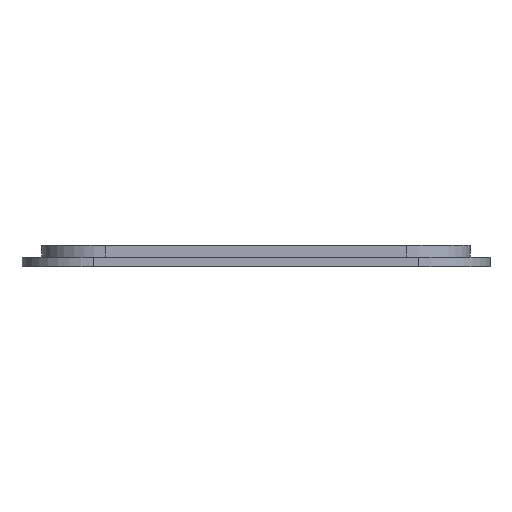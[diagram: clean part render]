
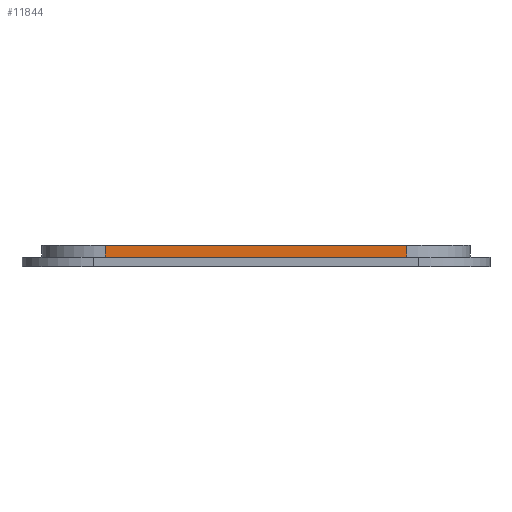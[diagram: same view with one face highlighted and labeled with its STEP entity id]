
A CAD part, front view. The second image highlights one B-rep face of the part: STEP entity #11844.
In plain terms, the highlighted planar face has unit normal (0, -1, 0).
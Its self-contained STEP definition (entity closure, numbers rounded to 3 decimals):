
#44 = PLANE('',#45);
#45 = AXIS2_PLACEMENT_3D('',#46,#47,#48);
#46 = CARTESIAN_POINT('',(-27.,-10.,13.));
#47 = DIRECTION('',(0.,0.,1.));
#48 = DIRECTION('',(1.,0.,-0.));
#72 = CYLINDRICAL_SURFACE('',#73,8.);
#73 = AXIS2_PLACEMENT_3D('',#74,#75,#76);
#74 = CARTESIAN_POINT('',(-19.,-2.,11.5));
#75 = DIRECTION('',(0.,0.,1.));
#76 = DIRECTION('',(-1.,-0.,0.));
#100 = PLANE('',#101);
#101 = AXIS2_PLACEMENT_3D('',#102,#103,#104);
#102 = CARTESIAN_POINT('',(-29.5,-12.5,11.5));
#103 = DIRECTION('',(0.,0.,1.));
#104 = DIRECTION('',(1.,0.,-0.));
#143 = VERTEX_POINT('',#144);
#144 = CARTESIAN_POINT('',(-19.,-10.,13.));
#166 = EDGE_CURVE('',#143,#167,#169,.T.);
#167 = VERTEX_POINT('',#168);
#168 = CARTESIAN_POINT('',(19.,-10.,13.));
#169 = SURFACE_CURVE('',#170,(#174,#181),.PCURVE_S1.);
#170 = LINE('',#171,#172);
#171 = CARTESIAN_POINT('',(-27.,-10.,13.));
#172 = VECTOR('',#173,1.);
#173 = DIRECTION('',(1.,0.,0.));
#174 = PCURVE('',#44,#175);
#175 = DEFINITIONAL_REPRESENTATION('',(#176),#180);
#176 = LINE('',#177,#178);
#177 = CARTESIAN_POINT('',(0.,0.));
#178 = VECTOR('',#179,1.);
#179 = DIRECTION('',(1.,0.));
#180 = ( GEOMETRIC_REPRESENTATION_CONTEXT(2) 
PARAMETRIC_REPRESENTATION_CONTEXT() REPRESENTATION_CONTEXT('2D SPACE',''
  ) );
#181 = PCURVE('',#182,#187);
#182 = PLANE('',#183);
#183 = AXIS2_PLACEMENT_3D('',#184,#185,#186);
#184 = CARTESIAN_POINT('',(-27.,-10.,11.5));
#185 = DIRECTION('',(0.,1.,0.));
#186 = DIRECTION('',(0.,-0.,1.));
#187 = DEFINITIONAL_REPRESENTATION('',(#188),#192);
#188 = LINE('',#189,#190);
#189 = CARTESIAN_POINT('',(1.5,0.));
#190 = VECTOR('',#191,1.);
#191 = DIRECTION('',(0.,1.));
#192 = ( GEOMETRIC_REPRESENTATION_CONTEXT(2) 
PARAMETRIC_REPRESENTATION_CONTEXT() REPRESENTATION_CONTEXT('2D SPACE',''
  ) );
#215 = CYLINDRICAL_SURFACE('',#216,8.);
#216 = AXIS2_PLACEMENT_3D('',#217,#218,#219);
#217 = CARTESIAN_POINT('',(19.,-2.,11.5));
#218 = DIRECTION('',(0.,0.,1.));
#219 = DIRECTION('',(1.,0.,-0.));
#11382 = VERTEX_POINT('',#11383);
#11383 = CARTESIAN_POINT('',(-19.,-10.,11.5));
#11405 = EDGE_CURVE('',#11382,#143,#11406,.T.);
#11406 = SURFACE_CURVE('',#11407,(#11411,#11418),.PCURVE_S1.);
#11407 = LINE('',#11408,#11409);
#11408 = CARTESIAN_POINT('',(-19.,-10.,11.5));
#11409 = VECTOR('',#11410,1.);
#11410 = DIRECTION('',(0.,0.,1.));
#11411 = PCURVE('',#72,#11412);
#11412 = DEFINITIONAL_REPRESENTATION('',(#11413),#11417);
#11413 = LINE('',#11414,#11415);
#11414 = CARTESIAN_POINT('',(1.571,0.));
#11415 = VECTOR('',#11416,1.);
#11416 = DIRECTION('',(0.,1.));
#11417 = ( GEOMETRIC_REPRESENTATION_CONTEXT(2) 
PARAMETRIC_REPRESENTATION_CONTEXT() REPRESENTATION_CONTEXT('2D SPACE',''
  ) );
#11418 = PCURVE('',#182,#11419);
#11419 = DEFINITIONAL_REPRESENTATION('',(#11420),#11424);
#11420 = LINE('',#11421,#11422);
#11421 = CARTESIAN_POINT('',(0.,8.));
#11422 = VECTOR('',#11423,1.);
#11423 = DIRECTION('',(1.,0.));
#11424 = ( GEOMETRIC_REPRESENTATION_CONTEXT(2) 
PARAMETRIC_REPRESENTATION_CONTEXT() REPRESENTATION_CONTEXT('2D SPACE',''
  ) );
#11797 = VERTEX_POINT('',#11798);
#11798 = CARTESIAN_POINT('',(19.,-10.,11.5));
#11824 = EDGE_CURVE('',#11382,#11797,#11825,.T.);
#11825 = SURFACE_CURVE('',#11826,(#11830,#11837),.PCURVE_S1.);
#11826 = LINE('',#11827,#11828);
#11827 = CARTESIAN_POINT('',(-27.,-10.,11.5));
#11828 = VECTOR('',#11829,1.);
#11829 = DIRECTION('',(1.,0.,0.));
#11830 = PCURVE('',#100,#11831);
#11831 = DEFINITIONAL_REPRESENTATION('',(#11832),#11836);
#11832 = LINE('',#11833,#11834);
#11833 = CARTESIAN_POINT('',(2.5,2.5));
#11834 = VECTOR('',#11835,1.);
#11835 = DIRECTION('',(1.,0.));
#11836 = ( GEOMETRIC_REPRESENTATION_CONTEXT(2) 
PARAMETRIC_REPRESENTATION_CONTEXT() REPRESENTATION_CONTEXT('2D SPACE',''
  ) );
#11837 = PCURVE('',#182,#11838);
#11838 = DEFINITIONAL_REPRESENTATION('',(#11839),#11843);
#11839 = LINE('',#11840,#11841);
#11840 = CARTESIAN_POINT('',(0.,0.));
#11841 = VECTOR('',#11842,1.);
#11842 = DIRECTION('',(0.,1.));
#11843 = ( GEOMETRIC_REPRESENTATION_CONTEXT(2) 
PARAMETRIC_REPRESENTATION_CONTEXT() REPRESENTATION_CONTEXT('2D SPACE',''
  ) );
#11844 = ADVANCED_FACE('',(#11845),#182,.F.);
#11845 = FACE_BOUND('',#11846,.F.);
#11846 = EDGE_LOOP('',(#11847,#11848,#11849,#11850));
#11847 = ORIENTED_EDGE('',*,*,#11824,.F.);
#11848 = ORIENTED_EDGE('',*,*,#11405,.T.);
#11849 = ORIENTED_EDGE('',*,*,#166,.T.);
#11850 = ORIENTED_EDGE('',*,*,#11851,.F.);
#11851 = EDGE_CURVE('',#11797,#167,#11852,.T.);
#11852 = SURFACE_CURVE('',#11853,(#11857,#11864),.PCURVE_S1.);
#11853 = LINE('',#11854,#11855);
#11854 = CARTESIAN_POINT('',(19.,-10.,11.5));
#11855 = VECTOR('',#11856,1.);
#11856 = DIRECTION('',(0.,0.,1.));
#11857 = PCURVE('',#182,#11858);
#11858 = DEFINITIONAL_REPRESENTATION('',(#11859),#11863);
#11859 = LINE('',#11860,#11861);
#11860 = CARTESIAN_POINT('',(0.,46.));
#11861 = VECTOR('',#11862,1.);
#11862 = DIRECTION('',(1.,0.));
#11863 = ( GEOMETRIC_REPRESENTATION_CONTEXT(2) 
PARAMETRIC_REPRESENTATION_CONTEXT() REPRESENTATION_CONTEXT('2D SPACE',''
  ) );
#11864 = PCURVE('',#215,#11865);
#11865 = DEFINITIONAL_REPRESENTATION('',(#11866),#11870);
#11866 = LINE('',#11867,#11868);
#11867 = CARTESIAN_POINT('',(4.712,0.));
#11868 = VECTOR('',#11869,1.);
#11869 = DIRECTION('',(-0.,1.));
#11870 = ( GEOMETRIC_REPRESENTATION_CONTEXT(2) 
PARAMETRIC_REPRESENTATION_CONTEXT() REPRESENTATION_CONTEXT('2D SPACE',''
  ) );
